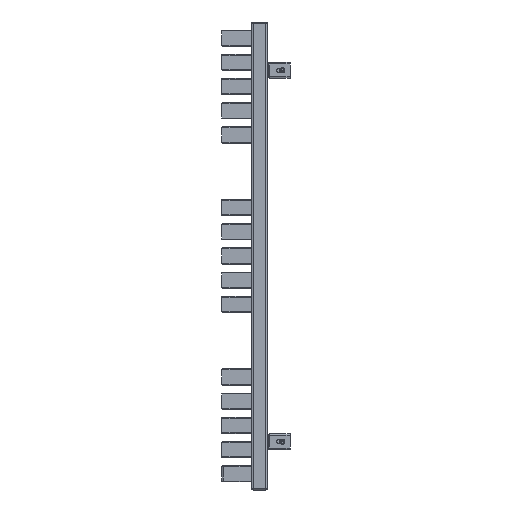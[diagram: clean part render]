
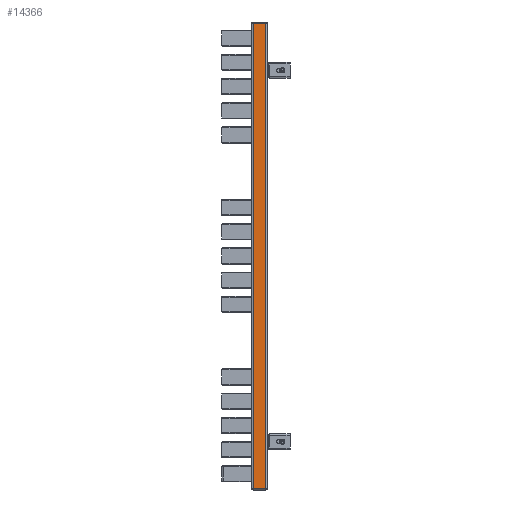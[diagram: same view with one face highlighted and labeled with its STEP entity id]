
A CAD part, left-side view. The second image highlights one B-rep face of the part: STEP entity #14366.
In plain terms, the highlighted planar face has unit normal (-1, 0, 0).
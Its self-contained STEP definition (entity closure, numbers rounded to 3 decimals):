
#14200=CARTESIAN_POINT('',(-300.0,-12.,867.0));
#14201=VERTEX_POINT('',#14200);
#14210=CARTESIAN_POINT('',(-300.0,12.,867.0));
#14211=VERTEX_POINT('',#14210);
#14219=CARTESIAN_POINT('',(-300.0,12.,867.0));
#14220=DIRECTION('',(0.0,-1.0,0.0));
#14221=VECTOR('',#14220,24.);
#14222=LINE('',#14219,#14221);
#14223=EDGE_CURVE('',#14211,#14201,#14222,.T.);
#14324=CARTESIAN_POINT('',(-300.0,-12.,3.0));
#14325=VERTEX_POINT('',#14324);
#14326=CARTESIAN_POINT('',(-300.0,-12.,3.0));
#14327=DIRECTION('',(0.0,0.0,1.0));
#14328=VECTOR('',#14327,864.0);
#14329=LINE('',#14326,#14328);
#14330=EDGE_CURVE('',#14325,#14201,#14329,.T.);
#14343=CARTESIAN_POINT('',(-300.0,-12.,0.0));
#14344=DIRECTION('',(-1.0,0.0,0.0));
#14345=DIRECTION('',(0.0,0.0,1.0));
#14346=AXIS2_PLACEMENT_3D('',#14343,#14344,#14345);
#14347=PLANE('',#14346);
#14348=ORIENTED_EDGE('',*,*,#14223,.F.);
#14349=CARTESIAN_POINT('',(-300.0,12.,3.0));
#14350=VERTEX_POINT('',#14349);
#14351=CARTESIAN_POINT('',(-300.0,12.,3.0));
#14352=DIRECTION('',(0.0,0.0,1.0));
#14353=VECTOR('',#14352,864.0);
#14354=LINE('',#14351,#14353);
#14355=EDGE_CURVE('',#14350,#14211,#14354,.T.);
#14356=ORIENTED_EDGE('',*,*,#14355,.F.);
#14357=CARTESIAN_POINT('',(-300.0,-12.,3.0));
#14358=DIRECTION('',(0.0,1.0,0.0));
#14359=VECTOR('',#14358,24.);
#14360=LINE('',#14357,#14359);
#14361=EDGE_CURVE('',#14325,#14350,#14360,.T.);
#14362=ORIENTED_EDGE('',*,*,#14361,.F.);
#14363=ORIENTED_EDGE('',*,*,#14330,.T.);
#14364=EDGE_LOOP('',(#14348,#14356,#14362,#14363));
#14365=FACE_OUTER_BOUND('',#14364,.T.);
#14366=ADVANCED_FACE('',(#14365),#14347,.T.);
